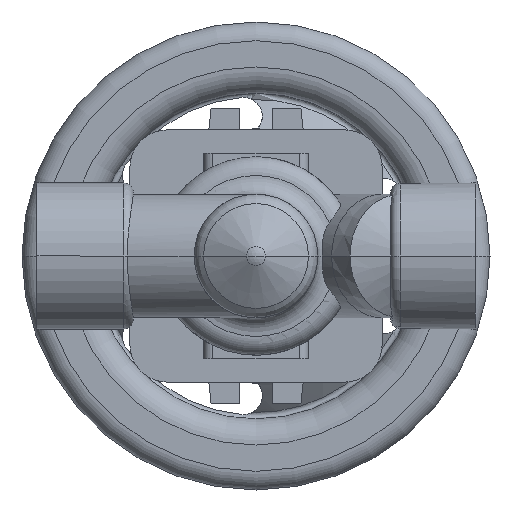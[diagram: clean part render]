
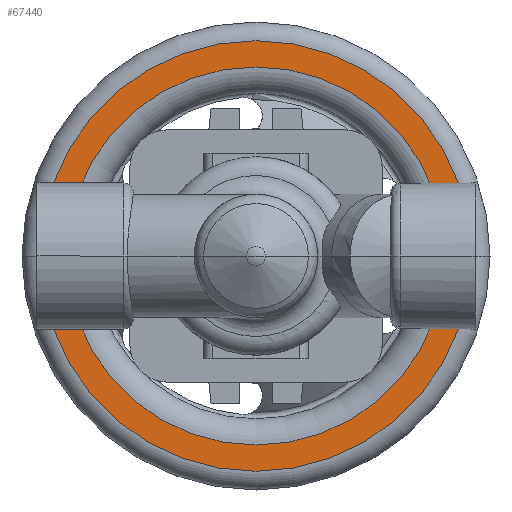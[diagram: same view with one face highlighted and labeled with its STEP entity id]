
A CAD part, front view. The second image highlights one B-rep face of the part: STEP entity #67440.
In plain terms, the highlighted planar face has unit normal (0, -1, 0).
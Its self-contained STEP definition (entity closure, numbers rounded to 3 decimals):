
#66820=CARTESIAN_POINT('',(1.,204.8,0.));
#66830=VERTEX_POINT('',#66820);
#66930=CARTESIAN_POINT('',(116.,204.8,0.));
#66940=VERTEX_POINT('',#66930);
#66970=CARTESIAN_POINT('',(58.5,204.8,0.));
#66980=DIRECTION('',(0.,1.,0.));
#66990=DIRECTION('',(-1.,0.,0.));
#67000=AXIS2_PLACEMENT_3D('',#66970,#66980,#66990);
#67010=CIRCLE('',#67000,57.5);
#67020=CARTESIAN_POINT('',(58.5,204.8,57.5));
#67030=VERTEX_POINT('',#67020);
#67040=EDGE_CURVE('',#67030,#66940,#67010,.T.);
#67060=EDGE_CURVE('',#66830,#67030,#67010,.T.);
#67180=CARTESIAN_POINT('',(4.5,204.8,0.));
#67190=DIRECTION('',(0.,-1.,0.));
#67200=DIRECTION('',(1.,0.,0.));
#67210=AXIS2_PLACEMENT_3D('',#67180,#67190,#67200);
#67220=PLANE('',#67210);
#67230=ORIENTED_EDGE('',*,*,#67040,.F.);
#67240=EDGE_CURVE('',#66940,#66830,#67010,.T.);
#67250=ORIENTED_EDGE('',*,*,#67240,.F.);
#67260=ORIENTED_EDGE('',*,*,#67060,.F.);
#67270=EDGE_LOOP('',(#67260,#67250,#67230));
#67280=FACE_OUTER_BOUND('',#67270,.T.);
#67290=CARTESIAN_POINT('',(58.5,204.8,0.));
#67300=DIRECTION('',(0.,1.,0.));
#67310=DIRECTION('',(-1.,0.,0.));
#67320=AXIS2_PLACEMENT_3D('',#67290,#67300,#67310);
#67330=CIRCLE('',#67320,50.5);
#67340=CARTESIAN_POINT('',(8.,204.8,0.));
#67350=VERTEX_POINT('',#67340);
#67360=CARTESIAN_POINT('',(109.,204.8,0.));
#67370=VERTEX_POINT('',#67360);
#67380=EDGE_CURVE('',#67350,#67370,#67330,.T.);
#67390=ORIENTED_EDGE('',*,*,#67380,.T.);
#67400=EDGE_CURVE('',#67370,#67350,#67330,.T.);
#67410=ORIENTED_EDGE('',*,*,#67400,.T.);
#67420=EDGE_LOOP('',(#67410,#67390));
#67430=FACE_BOUND('',#67420,.T.);
#67440=ADVANCED_FACE('',(#67280,#67430),#67220,.T.);
